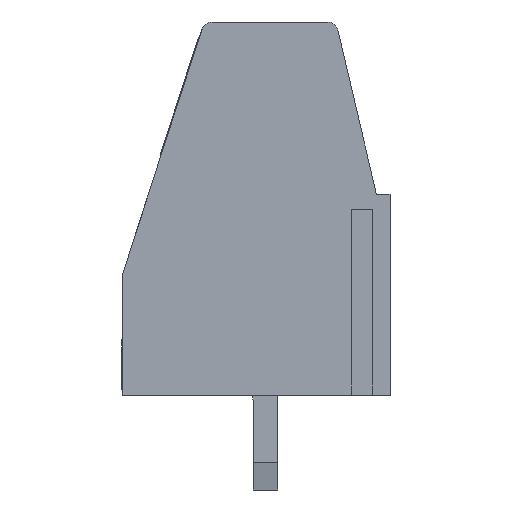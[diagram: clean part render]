
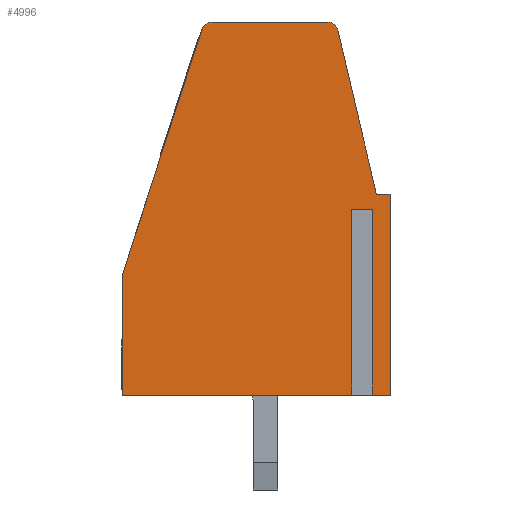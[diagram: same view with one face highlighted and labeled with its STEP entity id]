
A CAD part, left-side view. The second image highlights one B-rep face of the part: STEP entity #4996.
In plain terms, the highlighted planar face has unit normal (-1, 0, 0).
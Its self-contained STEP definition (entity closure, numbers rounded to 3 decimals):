
#4996=ADVANCED_FACE('',(#12403),#12404,.F.);
#5066=VERTEX_POINT('',#12511);
#5068=EDGE_CURVE('',#12513,#5066,#12514,.T.);
#5120=VERTEX_POINT('',#12583);
#5122=EDGE_CURVE('',#12585,#5120,#12586,.T.);
#9192=VERTEX_POINT('',#16689);
#9196=VERTEX_POINT('',#16693);
#9198=EDGE_CURVE('',#9192,#9196,#16695,.T.);
#9312=VERTEX_POINT('',#16809);
#9314=EDGE_CURVE('',#9196,#9312,#16811,.T.);
#9318=EDGE_CURVE('',#9312,#12585,#16815,.T.);
#9872=VERTEX_POINT('',#17369);
#9876=VERTEX_POINT('',#17373);
#9878=EDGE_CURVE('',#9872,#9876,#17375,.T.);
#9906=VERTEX_POINT('',#17403);
#9908=EDGE_CURVE('',#9906,#9872,#17405,.T.);
#9910=EDGE_CURVE('',#9906,#5066,#17407,.T.);
#9912=VERTEX_POINT('',#17409);
#9914=EDGE_CURVE('',#9912,#12513,#17411,.T.);
#9916=EDGE_CURVE('',#5120,#9912,#17413,.T.);
#9918=VERTEX_POINT('',#17415);
#9920=EDGE_CURVE('',#9918,#9192,#17417,.T.);
#9922=VERTEX_POINT('',#17419);
#9924=EDGE_CURVE('',#9922,#9918,#17421,.T.);
#9926=VERTEX_POINT('',#17423);
#9928=EDGE_CURVE('',#9922,#9926,#17425,.T.);
#9930=VERTEX_POINT('',#17427);
#9932=EDGE_CURVE('',#9930,#9926,#17429,.T.);
#9934=EDGE_CURVE('',#9876,#9930,#17431,.T.);
#12403=FACE_OUTER_BOUND('',#20442,.T.);
#12404=PLANE('',#20443);
#12511=CARTESIAN_POINT('',(0.,1.919,13.441));
#12513=VERTEX_POINT('',#20557);
#12514=CIRCLE('',#20558,0.4);
#12583=CARTESIAN_POINT('',(0.,6.551,13.75));
#12585=VERTEX_POINT('',#20651);
#12586=CIRCLE('',#20652,0.4);
#16689=CARTESIAN_POINT('',(0.,9.85,0.0));
#16693=CARTESIAN_POINT('',(0.,9.85,4.49));
#16695=LINE('',#27695,#27696);
#16809=CARTESIAN_POINT('',(0.,6.931,13.474));
#16811=LINE('',#27879,#27880);
#16815=CIRCLE('',#27887,0.4);
#17369=CARTESIAN_POINT('',(0.,0.,7.4));
#17373=CARTESIAN_POINT('',(0.,0.0,0.));
#17375=LINE('',#28779,#28780);
#17403=CARTESIAN_POINT('',(0.,0.5,7.4));
#17405=LINE('',#28827,#28828);
#17407=LINE('',#28831,#28832);
#17409=CARTESIAN_POINT('',(0.,2.308,13.75));
#17411=CIRCLE('',#28837,0.4);
#17413=LINE('',#28840,#28841);
#17415=CARTESIAN_POINT('',(0.,1.232,0.));
#17417=LINE('',#28846,#28847);
#17419=CARTESIAN_POINT('',(0.,1.232,6.85));
#17421=LINE('',#28852,#28853);
#17423=CARTESIAN_POINT('',(0.,0.818,6.85));
#17425=LINE('',#28858,#28859);
#17427=CARTESIAN_POINT('',(0.,0.818,0.));
#17429=LINE('',#28864,#28865);
#17431=LINE('',#28868,#28869);
#20442=EDGE_LOOP('',(#35880,#35881,#35882,#35883,#35884,#35885,#35886,#35887,#35888,#35889,#35890,#35891,#35892,#35893,#35894));
#20443=AXIS2_PLACEMENT_3D('',#35895,#35896,#35897);
#20557=CARTESIAN_POINT('',(0.,2.303,13.75));
#20558=AXIS2_PLACEMENT_3D('',#36222,#36223,#36224);
#20651=CARTESIAN_POINT('',(0.,6.929,13.48));
#20652=AXIS2_PLACEMENT_3D('',#36273,#36274,#36275);
#27695=CARTESIAN_POINT('',(0.,9.85,0.0));
#27696=VECTOR('',#37639,1.0);
#27879=CARTESIAN_POINT('',(0.,9.85,4.49));
#27880=VECTOR('',#37678,1.0);
#27887=AXIS2_PLACEMENT_3D('',#37680,#37681,#37682);
#28779=CARTESIAN_POINT('',(0.,0.,7.4));
#28780=VECTOR('',#37886,1.0);
#28827=CARTESIAN_POINT('',(0.,0.5,7.4));
#28828=VECTOR('',#37895,1.0);
#28831=CARTESIAN_POINT('',(0.,0.5,7.4));
#28832=VECTOR('',#37896,1.0);
#28837=AXIS2_PLACEMENT_3D('',#37897,#37898,#37899);
#28840=CARTESIAN_POINT('',(0.,6.551,13.75));
#28841=VECTOR('',#37900,1.0);
#28846=CARTESIAN_POINT('',(0.,1.232,0.));
#28847=VECTOR('',#37901,1.0);
#28852=CARTESIAN_POINT('',(0.,1.232,6.85));
#28853=VECTOR('',#37902,1.0);
#28858=CARTESIAN_POINT('',(0.,1.232,6.85));
#28859=VECTOR('',#37903,1.0);
#28864=CARTESIAN_POINT('',(0.,0.818,0.));
#28865=VECTOR('',#37904,1.0);
#28868=CARTESIAN_POINT('',(0.,0.0,0.));
#28869=VECTOR('',#37905,1.0);
#35880=ORIENTED_EDGE('',*,*,#9908,.F.);
#35881=ORIENTED_EDGE('',*,*,#9910,.T.);
#35882=ORIENTED_EDGE('',*,*,#5068,.F.);
#35883=ORIENTED_EDGE('',*,*,#9914,.F.);
#35884=ORIENTED_EDGE('',*,*,#9916,.F.);
#35885=ORIENTED_EDGE('',*,*,#5122,.F.);
#35886=ORIENTED_EDGE('',*,*,#9318,.F.);
#35887=ORIENTED_EDGE('',*,*,#9314,.F.);
#35888=ORIENTED_EDGE('',*,*,#9198,.F.);
#35889=ORIENTED_EDGE('',*,*,#9920,.F.);
#35890=ORIENTED_EDGE('',*,*,#9924,.F.);
#35891=ORIENTED_EDGE('',*,*,#9928,.T.);
#35892=ORIENTED_EDGE('',*,*,#9932,.F.);
#35893=ORIENTED_EDGE('',*,*,#9934,.F.);
#35894=ORIENTED_EDGE('',*,*,#9878,.F.);
#35895=CARTESIAN_POINT('',(0.,-0.246,-0.344));
#35896=DIRECTION('',(1.0,0.,0.));
#35897=DIRECTION('',(0.,0.0,-1.0));
#36222=CARTESIAN_POINT('',(0.,2.308,13.35));
#36223=DIRECTION('',(1.0,0.,0.));
#36224=DIRECTION('',(0.,0.0,1.0));
#36273=CARTESIAN_POINT('',(0.,6.551,13.35));
#36274=DIRECTION('',(1.0,0.,0.));
#36275=DIRECTION('',(0.,0.951,0.309));
#37639=DIRECTION('',(0.,0.,1.0));
#37678=DIRECTION('',(0.,-0.309,0.951));
#37680=CARTESIAN_POINT('',(0.,6.551,13.35));
#37681=DIRECTION('',(1.0,0.,0.));
#37682=DIRECTION('',(0.,0.951,0.309));
#37886=DIRECTION('',(0.,0.,-1.0));
#37895=DIRECTION('',(0.,-1.0,0.));
#37896=DIRECTION('',(0.,0.229,0.974));
#37897=CARTESIAN_POINT('',(0.,2.308,13.35));
#37898=DIRECTION('',(1.0,0.,0.));
#37899=DIRECTION('',(0.,0.0,1.0));
#37900=DIRECTION('',(0.,-1.0,0.));
#37901=DIRECTION('',(0.,1.0,0.));
#37902=DIRECTION('',(0.,0.,-1.0));
#37903=DIRECTION('',(0.,-1.0,0.0));
#37904=DIRECTION('',(0.,0.,1.0));
#37905=DIRECTION('',(0.,1.0,0.));
